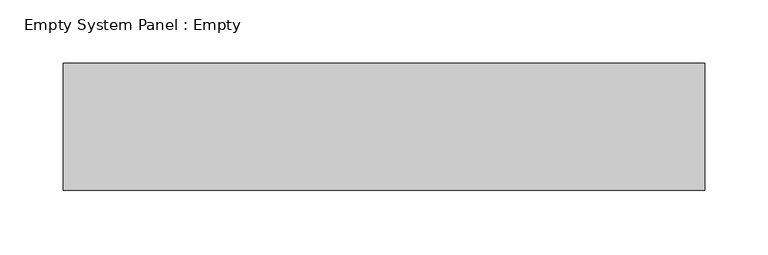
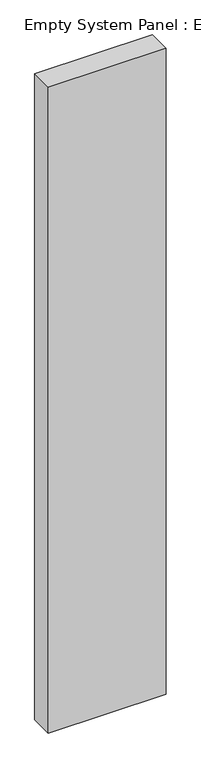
"""IFC4 building model written with IfcOpenShell, lengths in millimetres: plate geometry, Empty System Panel : Empty."""

from ifc_helpers import new_model, si_unit, origin, origin_with_axes, place, context, project, spatial, polyline, outline, extrude, source, transform, mapped, element, save


def empty_system_panel_empty_f6668541(model_context):
    return source(origin(), model_context, "Body", "SweptSolid", [
        extrude(outline(polyline([(252.5, -50.0), (-252.5, -50.0), (-252.5, 50.0), (252.5, 50.0), (252.5, -50.0)])), origin_with_axes(), (0.0, 0.0, 1.0), 2925.0),
    ])


if __name__ == "__main__":
    model = new_model("IFC4")
    model_context = context("Model", 3, world=origin())
    ifc_project = project(units=[si_unit("LENGTHUNIT", "METRE", prefix="MILLI")], contexts=[model_context])
    site = spatial("IfcSite", under=ifc_project)
    building = spatial("IfcBuilding", under=site)
    placement = place(None, origin())
    empty_system_panel_empty_shape = empty_system_panel_empty_f6668541(model_context)
    element("IfcPlate", 1, ObjectType="Empty System Panel : Empty", at=placement, inside=building, context=model_context, shape_type="MappedRepresentation", body=[
        mapped(empty_system_panel_empty_shape, transform((0.0, 0.0, 0.0), x_axis=(1.0, 0.0, 0.0), y_axis=(0.0, 1.0, 0.0), z_axis=(0.0, 0.0, 1.0))),
    ])
    save(model, "model.ifc")
